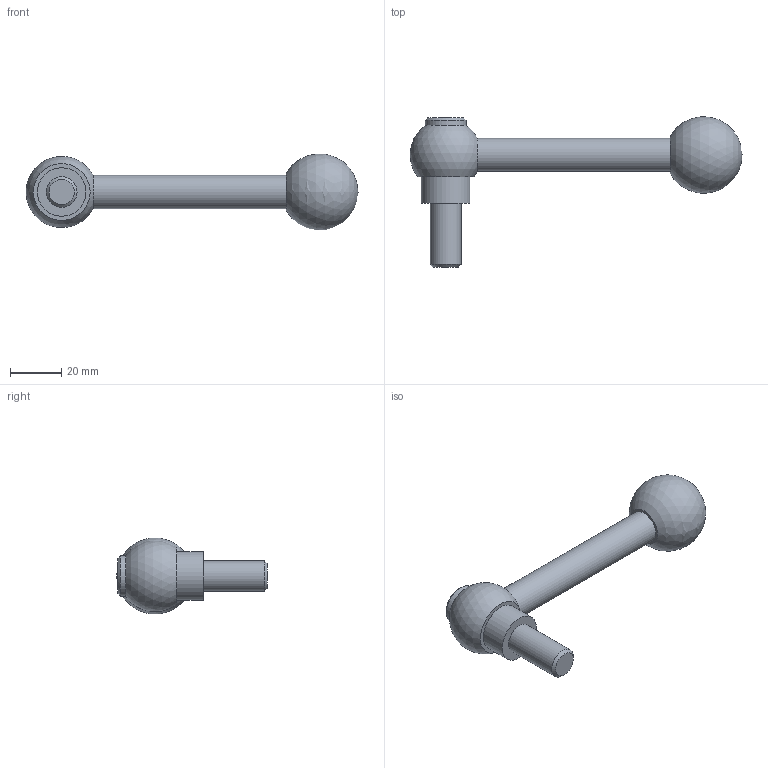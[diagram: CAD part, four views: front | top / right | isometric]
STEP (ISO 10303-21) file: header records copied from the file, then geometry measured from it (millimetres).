
FILE_DESCRIPTION( ( 'STEP AP203' ), '1' );
FILE_NAME( 'C:/Temp/Ganter_Step_05_03_2020/data/2_1/gn_6337_3/gn_6337_3_ms/gn_6337_3_ms_m/Adjustable clamping lever with bolt GN 6337.3-28-M12-25-M.stp', '2020-03-05T11:41:15', ( 'License CC BY-ND 4.0' ), ( 'CADENAS' ), ' ', 'PARTsolutions', ' ' );
FILE_SCHEMA( ( 'CONFIG_CONTROL_DESIGN' ) );
Length unit declared in the file: millimetre
Products named in the file (1): _Adjustable clamping lever with bolt GN 6337.3-28-M12-25-M
Bounding box: 129.99 x 58.93 x 29.7 mm (x, y, z)
Volume: 40323.4 mm3; surface area: 9641.1 mm2
Topology: 1 solids, 1 shells, 13 faces, 26 edges, 17 vertices
Faces by surface type: plane 5, cylinder 4, cone 2, sphere 2
Full cylindrical faces by diameter (mm): 12 x1, 13 x1, 15.969 x1, 19 x1
Entity records: 302 total; most frequent: DIRECTION 52, CARTESIAN_POINT 39, AXIS2_PLACEMENT_3D 26, EDGE_LOOP 24, ORIENTED_EDGE 24, FACE_OUTER_BOUND 18, ADVANCED_FACE 13, VERTEX_POINT 13
